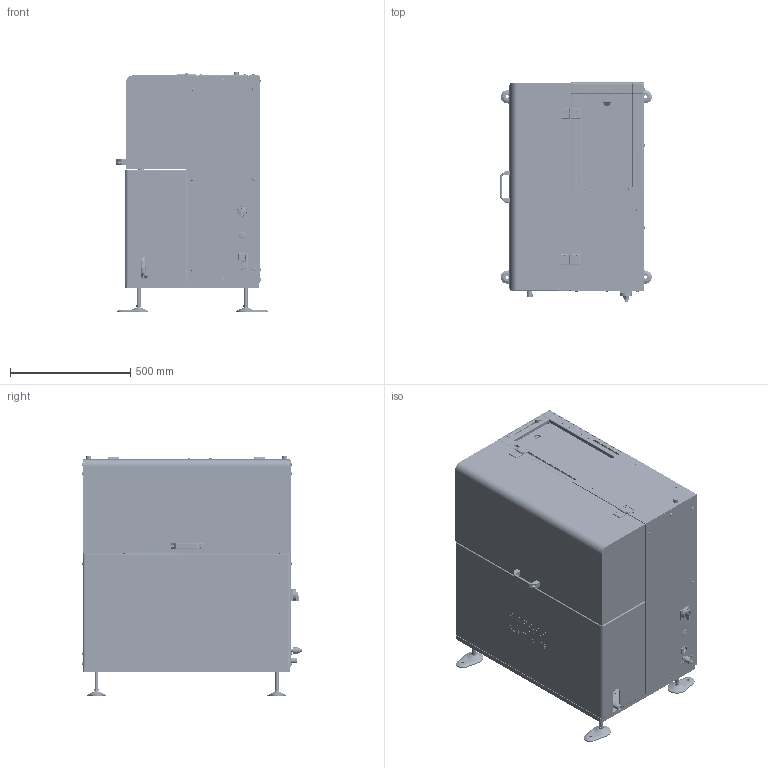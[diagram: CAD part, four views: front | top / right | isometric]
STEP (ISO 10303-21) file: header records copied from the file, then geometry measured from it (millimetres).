
FILE_DESCRIPTION(/* description */ ('','CAx-IF Rec.Pracs.---Representation and Presentation of Product Manufacturing Information (PMI)---4.0---2014-10-13'),/* implementation_level */ '2;1');
FILE_NAME(/* name */ 'C:\Users\Wolf\Desktop\PDF\581416.stp',/* time_stamp */ '2020-07-02T08:57:50+02:00',/* author */ ('Wolf'),/* organization */ (''),/* preprocessor_version */ 'ST-DEVELOPER v17',/* originating_system */ 'Autodesk Inventor 2018',/* authorisation */ '');
FILE_SCHEMA (('AP242_MANAGED_MODEL_BASED_3D_ENGINEERING_MIM_LF { 1 0 10303 442 1 1 4 }'));
Products named in the file (1): 581416
Bounding box: 630.7 x 916.85 x 999 mm (x, y, z)
Volume: 33018273.3 mm3; surface area: 12677674.2 mm2
Topology: 14 solids, 205 shells, 14656 faces, 41028 edges, 27027 vertices
Faces by surface type: plane 8596, cylinder 3791, cone 957, bspline 901, torus 349, sphere 62
Full cylindrical faces by diameter (mm): 0.2 x3, 0.6 x6, 0.8 x3, 1 x125, 1.4 x4, 1.5 x4, 1.8 x3, 2 x16, 2.2 x7, 2.339 x5, 2.459 x11, 2.48 x5, 2.5 x8, 2.8 x3, 3 x12, 3.2 x8, 3.242 x54, 3.3 x16, 3.4 x5, 3.469 x5, 3.5 x19, 3.585 x5, 4 x50, 4.1 x4, 4.134 x8, 4.2 x15, 4.3 x4, 4.5 x48, 4.917 x18, 4.92 x4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
Entity records: 542198 total; most frequent: CARTESIAN_POINT 153872, ORIENTED_EDGE 81698, DIRECTION 74315, EDGE_CURVE 40849, VERTEX_POINT 27027, AXIS2_PLACEMENT_3D 25493, LINE 23329, VECTOR 23329
